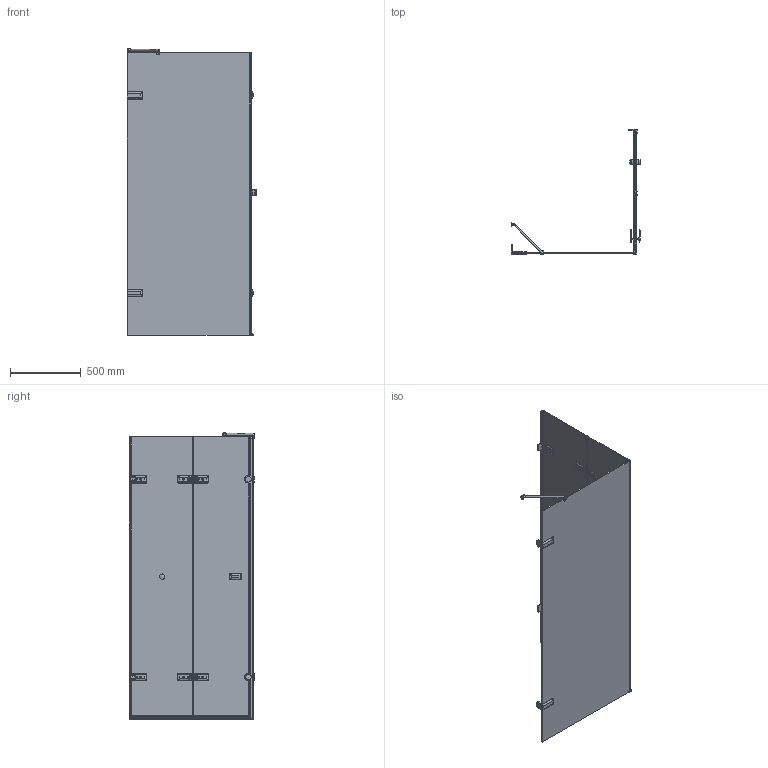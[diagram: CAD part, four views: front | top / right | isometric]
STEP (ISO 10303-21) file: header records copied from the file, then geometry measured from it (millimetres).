
FILE_DESCRIPTION(/* description */ (''),/* implementation_level */ '2;1');
FILE_NAME(/* name */ 'E:\Работа\Сергей\Душевые кабинки\! Работа\777\TREND SQUARE GK-863A\TREND SQUARE GK-863A правая модель\TREND SQUARE GK-863A ПРАВАЯ-3D.stp',/* time_stamp */ '2018-04-16T19:30:57+03:00',/* author */ ('PC'),/* organization */ (''),/* preprocessor_version */ 'ST-DEVELOPER v15.2',/* originating_system */ 'Autodesk Inventor 2014',/* authorisation */ '');
FILE_SCHEMA (('AUTOMOTIVE_DESIGN { 1 0 10303 214 3 1 1 }'));
Products named in the file (1): TREND SQUARE GK-863A ПРАВАЯ-
3D
Bounding box: 917.1 x 889 x 2031.5 mm (x, y, z)
Volume: 25897397.1 mm3; surface area: 7598858.1 mm2
Topology: 7 solids, 7 shells, 1826 faces, 4984 edges, 3105 vertices
Faces by surface type: plane 1081, cylinder 485, bspline 170, torus 47, cone 22, sphere 21
Full cylindrical faces by diameter (mm): 6 x4, 9 x8, 12 x3, 13 x4, 15 x1, 20 x2, 26 x1, 38 x4, 40 x2
Entity records: 75865 total; most frequent: CARTESIAN_POINT 28626, ORIENTED_EDGE 9676, DIRECTION 9173, EDGE_CURVE 4838, LINE 3135, VECTOR 3135, VERTEX_POINT 3083, AXIS2_PLACEMENT_3D 3019
